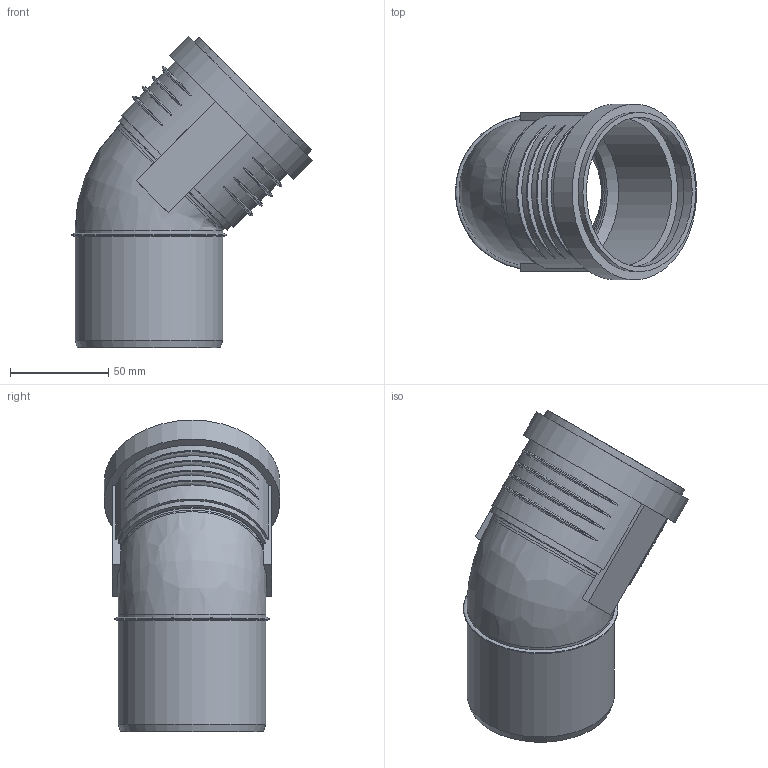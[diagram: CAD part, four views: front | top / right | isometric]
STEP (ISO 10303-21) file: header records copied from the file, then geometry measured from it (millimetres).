
FILE_DESCRIPTION(/* description */ (''),/* implementation_level */ '2;1');
FILE_NAME(/* name */ 'Z:\Geberit\Export\NewStep\390322.stp',/* time_stamp */ '2014-04-02T08:11:36+02:00',/* author */ ('ML'),/* organization */ (''),/* preprocessor_version */ 'ST-DEVELOPER v15.2',/* originating_system */ 'Autodesk Inventor 2014',/* authorisation */ '');
FILE_SCHEMA (('AUTOMOTIVE_DESIGN { 1 0 10303 214 3 1 1 }'));
Length unit declared in the file: millimetre
Products named in the file (3): 861328; 861402; 390322
Bounding box: 122.89 x 89.6 x 158.78 mm (x, y, z)
Volume: 104864.9 mm3; surface area: 84075.8 mm2
Topology: 2 solids, 2 shells, 68 faces, 162 edges, 109 vertices
Faces by surface type: torus 28, plane 19, cylinder 18, cone 2, bspline 1
Full cylindrical faces by diameter (mm): 70 x2, 70.2 x1, 75.2 x4, 76.2 x2, 81.2 x1, 84.6 x1, 89.6 x1
Entity records: 2726 total; most frequent: CARTESIAN_POINT 1150, DIRECTION 290, ORIENTED_EDGE 278, EDGE_CURVE 139, AXIS2_PLACEMENT_3D 127, VERTEX_POINT 106, EDGE_LOOP 103, STYLED_ITEM 70
